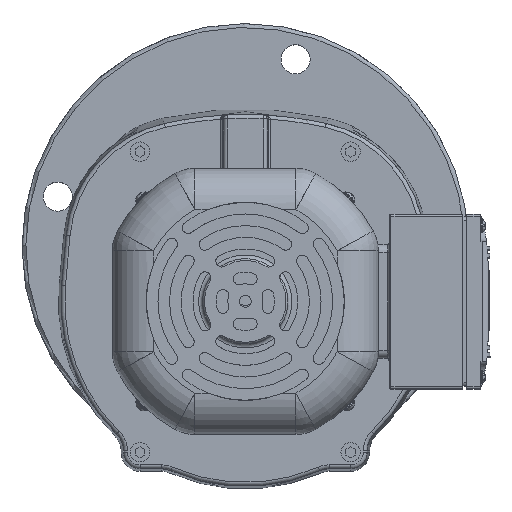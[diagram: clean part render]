
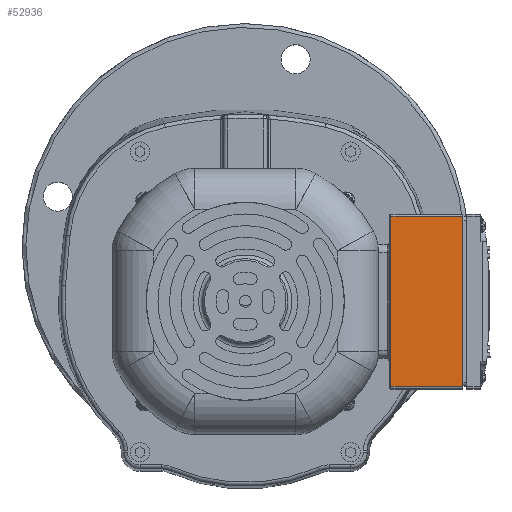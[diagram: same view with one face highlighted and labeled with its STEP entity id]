
A CAD part, top view. The second image highlights one B-rep face of the part: STEP entity #52936.
In plain terms, the highlighted planar face has unit normal (0, 0, 1).
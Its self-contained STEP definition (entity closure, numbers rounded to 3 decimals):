
#1151=PLANE('',#56483);
#2554=LINE('',#79364,#5346);
#2555=LINE('',#79366,#5347);
#2556=LINE('',#79368,#5348);
#2557=LINE('',#79369,#5349);
#5346=VECTOR('',#63539,10.);
#5347=VECTOR('',#63540,10.);
#5348=VECTOR('',#63541,10.);
#5349=VECTOR('',#63542,10.);
#8766=FACE_OUTER_BOUND('',#11996,.T.);
#11996=EDGE_LOOP('',(#34875,#34876,#34877,#34878));
#20754=VERTEX_POINT('',#79362);
#20755=VERTEX_POINT('',#79363);
#20756=VERTEX_POINT('',#79365);
#20757=VERTEX_POINT('',#79367);
#25972=EDGE_CURVE('',#20754,#20755,#2554,.T.);
#25973=EDGE_CURVE('',#20756,#20754,#2555,.T.);
#25974=EDGE_CURVE('',#20756,#20757,#2556,.T.);
#25975=EDGE_CURVE('',#20755,#20757,#2557,.T.);
#34875=ORIENTED_EDGE('',*,*,#25972,.F.);
#34876=ORIENTED_EDGE('',*,*,#25973,.F.);
#34877=ORIENTED_EDGE('',*,*,#25974,.T.);
#34878=ORIENTED_EDGE('',*,*,#25975,.F.);
#52936=ADVANCED_FACE('',(#8766),#1151,.T.);
#56483=AXIS2_PLACEMENT_3D('',#79361,#63537,#63538);
#63537=DIRECTION('center_axis',(0.,0.,
1.));
#63538=DIRECTION('ref_axis',(1.,0.,0.));
#63539=DIRECTION('',(0.,1.,0.));
#63540=DIRECTION('',(-1.,0.,0.));
#63541=DIRECTION('',(0.,1.,0.));
#63542=DIRECTION('',(1.,0.,0.));
#79361=CARTESIAN_POINT('Origin',(64.617,-67.614,223.25));
#79362=CARTESIAN_POINT('',(65.617,-66.614,223.25));
#79363=CARTESIAN_POINT('',(65.617,21.386,223.25));
#79364=CARTESIAN_POINT('',(65.617,-45.114,223.25));
#79365=CARTESIAN_POINT('',(102.617,-66.614,223.25));
#79366=CARTESIAN_POINT('',(64.617,-66.614,223.25));
#79367=CARTESIAN_POINT('',(102.617,21.386,223.25));
#79368=CARTESIAN_POINT('',(102.617,22.386,223.25));
#79369=CARTESIAN_POINT('',(64.617,21.386,223.25));
